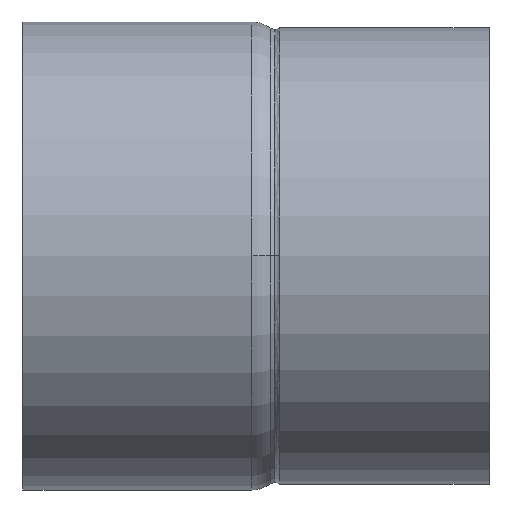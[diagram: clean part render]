
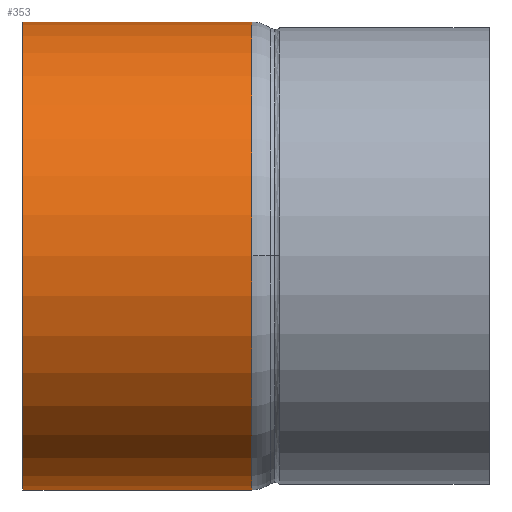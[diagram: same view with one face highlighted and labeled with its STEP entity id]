
A CAD part, top view. The second image highlights one B-rep face of the part: STEP entity #353.
In plain terms, the highlighted cylindrical face has radius 38.05 mm (diameter 76.1 mm), a partial arc.
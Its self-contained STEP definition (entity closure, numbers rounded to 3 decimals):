
#303=CARTESIAN_POINT('',(18.607,0.0,0.0));
#304=DIRECTION('',(1.0,0.0,0.0));
#305=DIRECTION('',(0.0,1.0,0.0));
#306=AXIS2_PLACEMENT_3D('',#303,#304,#305);
#307=CYLINDRICAL_SURFACE('',#306,38.05);
#308=CARTESIAN_POINT('',(0.,38.05,0.0));
#309=VERTEX_POINT('',#308);
#310=CARTESIAN_POINT('',(37.214,38.05,0.0));
#311=VERTEX_POINT('',#310);
#312=CARTESIAN_POINT('',(0.,38.05,0.0));
#313=DIRECTION('',(1.0,0.0,0.0));
#314=VECTOR('',#313,37.214);
#315=LINE('',#312,#314);
#316=EDGE_CURVE('',#309,#311,#315,.T.);
#317=ORIENTED_EDGE('',*,*,#316,.F.);
#318=CARTESIAN_POINT('',(0.,-38.05,0.));
#319=VERTEX_POINT('',#318);
#320=CARTESIAN_POINT('',(0.,0.0,0.0));
#321=DIRECTION('',(1.0,0.0,0.0));
#322=DIRECTION('',(0.0,1.0,0.0));
#323=AXIS2_PLACEMENT_3D('',#320,#321,#322);
#324=CIRCLE('',#323,38.05);
#325=EDGE_CURVE('',#309,#319,#324,.T.);
#326=ORIENTED_EDGE('',*,*,#325,.T.);
#327=CARTESIAN_POINT('',(37.214,-38.05,0.));
#328=VERTEX_POINT('',#327);
#329=CARTESIAN_POINT('',(37.214,-38.05,0.));
#330=DIRECTION('',(-1.0,0.0,0.0));
#331=VECTOR('',#330,37.214);
#332=LINE('',#329,#331);
#333=EDGE_CURVE('',#328,#319,#332,.T.);
#334=ORIENTED_EDGE('',*,*,#333,.F.);
#335=CARTESIAN_POINT('',(37.214,0.,38.05));
#336=VERTEX_POINT('',#335);
#337=CARTESIAN_POINT('',(37.214,0.0,0.0));
#338=DIRECTION('',(1.0,0.0,0.0));
#339=DIRECTION('',(0.0,1.0,0.0));
#340=AXIS2_PLACEMENT_3D('',#337,#338,#339);
#341=CIRCLE('',#340,38.05);
#342=EDGE_CURVE('',#336,#328,#341,.T.);
#343=ORIENTED_EDGE('',*,*,#342,.F.);
#344=CARTESIAN_POINT('',(37.214,0.0,0.0));
#345=DIRECTION('',(1.0,0.0,0.0));
#346=DIRECTION('',(0.0,1.0,0.0));
#347=AXIS2_PLACEMENT_3D('',#344,#345,#346);
#348=CIRCLE('',#347,38.05);
#349=EDGE_CURVE('',#311,#336,#348,.T.);
#350=ORIENTED_EDGE('',*,*,#349,.F.);
#351=EDGE_LOOP('',(#317,#326,#334,#343,#350));
#352=FACE_OUTER_BOUND('',#351,.T.);
#353=ADVANCED_FACE('',(#352),#307,.T.);
